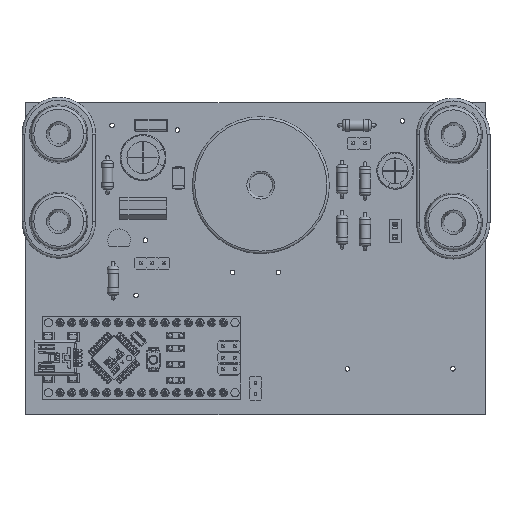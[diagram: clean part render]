
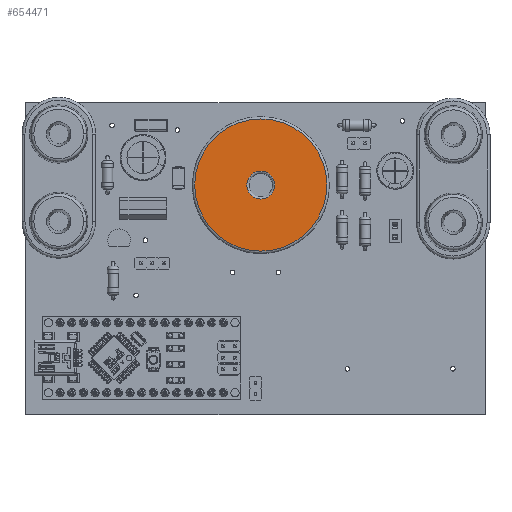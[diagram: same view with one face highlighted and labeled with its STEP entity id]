
A CAD part, top view. The second image highlights one B-rep face of the part: STEP entity #654471.
In plain terms, the highlighted planar face has unit normal (0, 0, 1).
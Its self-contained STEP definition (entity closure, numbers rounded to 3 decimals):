
#654189 = TOROIDAL_SURFACE('',#654190,14.4,0.5);
#654190 = AXIS2_PLACEMENT_3D('',#654191,#654192,#654193);
#654191 = CARTESIAN_POINT('',(14.15,0.,10.1));
#654192 = DIRECTION('',(0.,0.,1.));
#654193 = DIRECTION('',(1.,0.,-0.));
#654294 = VERTEX_POINT('',#654295);
#654295 = CARTESIAN_POINT('',(28.55,0.,10.6));
#654319 = EDGE_CURVE('',#654294,#654294,#654320,.T.);
#654320 = SURFACE_CURVE('',#654321,(#654326,#654333),.PCURVE_S1.);
#654321 = CIRCLE('',#654322,14.4);
#654322 = AXIS2_PLACEMENT_3D('',#654323,#654324,#654325);
#654323 = CARTESIAN_POINT('',(14.15,0.,10.6));
#654324 = DIRECTION('',(0.,0.,1.));
#654325 = DIRECTION('',(1.,0.,-0.));
#654326 = PCURVE('',#654189,#654327);
#654327 = DEFINITIONAL_REPRESENTATION('',(#654328),#654332);
#654328 = LINE('',#654329,#654330);
#654329 = CARTESIAN_POINT('',(0.,1.571));
#654330 = VECTOR('',#654331,1.);
#654331 = DIRECTION('',(1.,0.));
#654332 = ( GEOMETRIC_REPRESENTATION_CONTEXT(2) 
PARAMETRIC_REPRESENTATION_CONTEXT() REPRESENTATION_CONTEXT('2D SPACE',''
  ) );
#654333 = PCURVE('',#654334,#654339);
#654334 = PLANE('',#654335);
#654335 = AXIS2_PLACEMENT_3D('',#654336,#654337,#654338);
#654336 = CARTESIAN_POINT('',(29.05,0.,10.6));
#654337 = DIRECTION('',(0.,0.,-1.));
#654338 = DIRECTION('',(-1.,0.,0.));
#654339 = DEFINITIONAL_REPRESENTATION('',(#654340),#654348);
#654340 = ( BOUNDED_CURVE() B_SPLINE_CURVE(2,(#654341,#654342,#654343,
    #654344,#654345,#654346,#654347),.UNSPECIFIED.,.T.,.F.) 
B_SPLINE_CURVE_WITH_KNOTS((1,2,2,2,2,1),(-2.094,0.,
    2.094,4.189,6.283,8.378),
.UNSPECIFIED.) CURVE() GEOMETRIC_REPRESENTATION_ITEM() 
RATIONAL_B_SPLINE_CURVE((1.,0.5,1.,0.5,1.,0.5,1.)) REPRESENTATION_ITEM(
  '') );
#654341 = CARTESIAN_POINT('',(0.5,0.));
#654342 = CARTESIAN_POINT('',(0.5,24.942));
#654343 = CARTESIAN_POINT('',(22.1,12.471));
#654344 = CARTESIAN_POINT('',(43.7,0.));
#654345 = CARTESIAN_POINT('',(22.1,-12.471));
#654346 = CARTESIAN_POINT('',(0.5,-24.942));
#654347 = CARTESIAN_POINT('',(0.5,0.));
#654348 = ( GEOMETRIC_REPRESENTATION_CONTEXT(2) 
PARAMETRIC_REPRESENTATION_CONTEXT() REPRESENTATION_CONTEXT('2D SPACE',''
  ) );
#654471 = ADVANCED_FACE('',(#654472,#654507),#654334,.F.);
#654472 = FACE_BOUND('',#654473,.F.);
#654473 = EDGE_LOOP('',(#654474));
#654474 = ORIENTED_EDGE('',*,*,#654475,.T.);
#654475 = EDGE_CURVE('',#654476,#654476,#654478,.T.);
#654476 = VERTEX_POINT('',#654477);
#654477 = CARTESIAN_POINT('',(17.2,0.,10.6));
#654478 = SURFACE_CURVE('',#654479,(#654484,#654495),.PCURVE_S1.);
#654479 = CIRCLE('',#654480,3.05);
#654480 = AXIS2_PLACEMENT_3D('',#654481,#654482,#654483);
#654481 = CARTESIAN_POINT('',(14.15,0.,10.6));
#654482 = DIRECTION('',(0.,0.,1.));
#654483 = DIRECTION('',(1.,0.,-0.));
#654484 = PCURVE('',#654334,#654485);
#654485 = DEFINITIONAL_REPRESENTATION('',(#654486),#654494);
#654486 = ( BOUNDED_CURVE() B_SPLINE_CURVE(2,(#654487,#654488,#654489,
    #654490,#654491,#654492,#654493),.UNSPECIFIED.,.T.,.F.) 
B_SPLINE_CURVE_WITH_KNOTS((1,2,2,2,2,1),(-2.094,0.,
    2.094,4.189,6.283,8.378),
.UNSPECIFIED.) CURVE() GEOMETRIC_REPRESENTATION_ITEM() 
RATIONAL_B_SPLINE_CURVE((1.,0.5,1.,0.5,1.,0.5,1.)) REPRESENTATION_ITEM(
  '') );
#654487 = CARTESIAN_POINT('',(11.85,0.));
#654488 = CARTESIAN_POINT('',(11.85,5.283));
#654489 = CARTESIAN_POINT('',(16.425,2.641));
#654490 = CARTESIAN_POINT('',(21.,0.));
#654491 = CARTESIAN_POINT('',(16.425,-2.641));
#654492 = CARTESIAN_POINT('',(11.85,-5.283));
#654493 = CARTESIAN_POINT('',(11.85,0.));
#654494 = ( GEOMETRIC_REPRESENTATION_CONTEXT(2) 
PARAMETRIC_REPRESENTATION_CONTEXT() REPRESENTATION_CONTEXT('2D SPACE',''
  ) );
#654495 = PCURVE('',#654496,#654501);
#654496 = TOROIDAL_SURFACE('',#654497,3.05,0.5);
#654497 = AXIS2_PLACEMENT_3D('',#654498,#654499,#654500);
#654498 = CARTESIAN_POINT('',(14.15,0.,10.1));
#654499 = DIRECTION('',(0.,0.,-1.));
#654500 = DIRECTION('',(1.,0.,0.));
#654501 = DEFINITIONAL_REPRESENTATION('',(#654502),#654506);
#654502 = LINE('',#654503,#654504);
#654503 = CARTESIAN_POINT('',(6.283,4.712));
#654504 = VECTOR('',#654505,1.);
#654505 = DIRECTION('',(-1.,0.));
#654506 = ( GEOMETRIC_REPRESENTATION_CONTEXT(2) 
PARAMETRIC_REPRESENTATION_CONTEXT() REPRESENTATION_CONTEXT('2D SPACE',''
  ) );
#654507 = FACE_BOUND('',#654508,.F.);
#654508 = EDGE_LOOP('',(#654509));
#654509 = ORIENTED_EDGE('',*,*,#654319,.F.);
